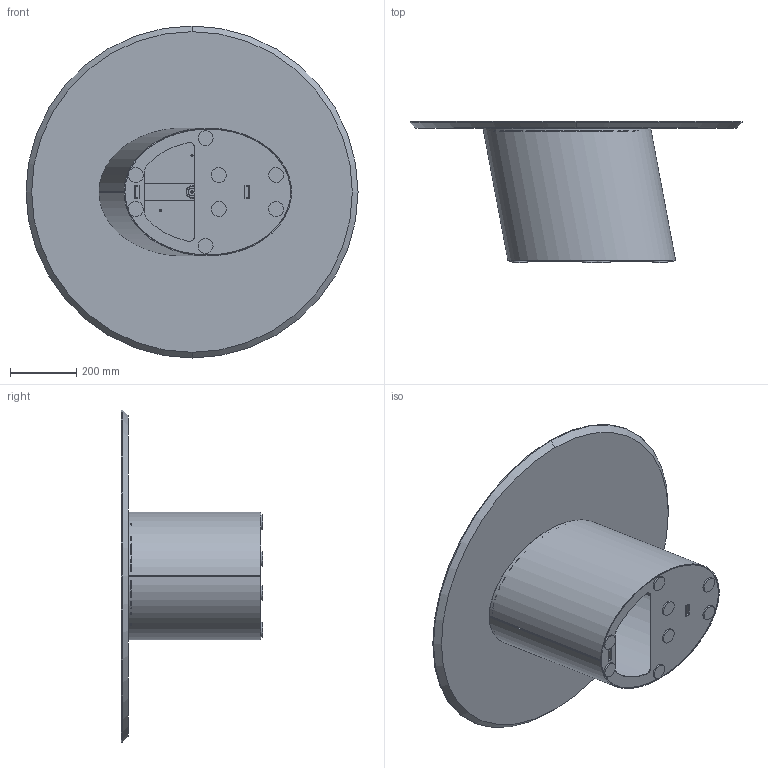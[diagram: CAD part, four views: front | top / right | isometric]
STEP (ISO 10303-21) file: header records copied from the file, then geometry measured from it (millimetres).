
FILE_DESCRIPTION (( 'STEP AP203' ), '1' );
FILE_NAME ('D203W.STEP', '2024-08-07T11:23:30', ( '' ), ( '' ), 'SwSTEP 2.0', 'SolidWorks 2022', '' );
FILE_SCHEMA (( 'CONFIG_CONTROL_DESIGN' ));
Length unit declared in the file: millimetre
Products named in the file (4): W1XCMXX-00-Piani Rotondi legno_D.1000 SP.20cm; Parte2^Dxxxx-00-DORADO LOW; D203W; D2B000001-00-BASAMENTO DORADO LOW H420_Default<A macchina>
Assembly tree (10 placements, depth 2):
  D203W
    D2B000001-00-BASAMENTO DORADO LOW H420_Default<A macchina>
    Parte2^Dxxxx-00-DORADO LOW  x8
    W1XCMXX-00-Piani Rotondi legno_D.1000 SP.20cm
Bounding box: 1000 x 425 x 1000 mm (x, y, z)
Volume: 17513040.4 mm3; surface area: 3284283.4 mm2
Topology: 16 solids, 16 shells, 185 faces, 447 edges, 290 vertices
Faces by surface type: plane 82, cylinder 73, cone 16, bspline 14
Entity records: 8346 total; most frequent: CARTESIAN_POINT 3922, ORIENTED_EDGE 794, DIRECTION 781, EDGE_CURVE 397, AXIS2_PLACEMENT_3D 280, VERTEX_POINT 262, LINE 221, VECTOR 221
